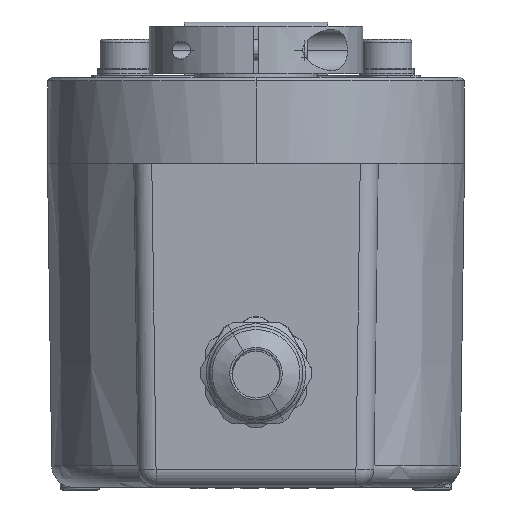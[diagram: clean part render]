
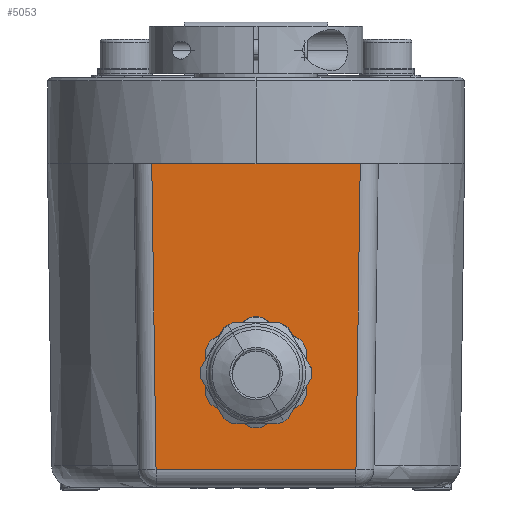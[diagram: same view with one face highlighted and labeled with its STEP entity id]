
A CAD part, front view. The second image highlights one B-rep face of the part: STEP entity #5053.
In plain terms, the highlighted planar face has unit normal (0, -1, -0.014).
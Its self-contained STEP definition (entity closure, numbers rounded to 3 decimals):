
#96 = VERTEX_POINT ( 'NONE', #1080 ) ;
#125 = DIRECTION ( 'NONE',  ( 0., -1., -0.014 ) ) ;
#296 = VECTOR ( 'NONE', #6227, 1000. ) ;
#648 = VECTOR ( 'NONE', #2773, 1000. ) ;
#1080 = CARTESIAN_POINT ( 'NONE',  ( 13.906, -28.406, 2.465 ) ) ;
#1254 = CARTESIAN_POINT ( 'NONE',  ( 17., -29., 45. ) ) ;
#1728 = CARTESIAN_POINT ( 'NONE',  ( -14.5, -29., 45. ) ) ;
#1730 = VERTEX_POINT ( 'NONE', #9848 ) ;
#2277 = FACE_BOUND ( 'NONE', #13207, .T. ) ;
#2279 = CARTESIAN_POINT ( 'NONE',  ( 17., -29., 45. ) ) ;
#2726 = CARTESIAN_POINT ( 'NONE',  ( 5.65, -28.753, 27.3 ) ) ;
#2773 = DIRECTION ( 'NONE',  ( 1., 0., 0. ) ) ;
#3158 = CARTESIAN_POINT ( 'NONE',  ( -14.494, -28.994, 44.56 ) ) ;
#3225 = CARTESIAN_POINT ( 'NONE',  ( -5.65, -28.437, 4.7 ) ) ;
#3327 = VERTEX_POINT ( 'NONE', #6136 ) ;
#3533 = ORIENTED_EDGE ( 'NONE', *, *, #10076, .F. ) ;
#3920 = CARTESIAN_POINT ( 'NONE',  ( -5.65, -28.595, 16. ) ) ;
#3959 = EDGE_LOOP ( 'NONE', ( #4321, #4698, #5106, #15077, #3533 ) ) ;
#4003 = ORIENTED_EDGE ( 'NONE', *, *, #7518, .F. ) ;
#4321 = ORIENTED_EDGE ( 'NONE', *, *, #6979, .F. ) ;
#4619 = VECTOR ( 'NONE', #9449, 1000. ) ;
#4698 = ORIENTED_EDGE ( 'NONE', *, *, #6873, .T. ) ;
#5053 = ADVANCED_FACE ( 'NONE', ( #2277, #13188 ), #9609, .T. ) ;
#5106 = ORIENTED_EDGE ( 'NONE', *, *, #15605, .T. ) ;
#5109 = EDGE_CURVE ( 'NONE', #7509, #14429, #7309, .T. ) ;
#5138 = VERTEX_POINT ( 'NONE', #1728 ) ;
#5641 = VECTOR ( 'NONE', #12797, 1000. ) ;
#6136 = CARTESIAN_POINT ( 'NONE',  ( -13.906, -28.406, 2.465 ) ) ;
#6227 = DIRECTION ( 'NONE',  ( 1., 0., 0. ) ) ;
#6502 = VERTEX_POINT ( 'NONE', #7115 ) ;
#6824 = DIRECTION ( 'NONE',  ( 1., 0., 0. ) ) ;
#6873 = EDGE_CURVE ( 'NONE', #5138, #3327, #10339, .T. ) ;
#6979 = EDGE_CURVE ( 'NONE', #5138, #1730, #14393, .T. ) ;
#7095 = AXIS2_PLACEMENT_3D ( 'NONE', #1254, #125, #14392 ) ;
#7115 = CARTESIAN_POINT ( 'NONE',  ( 14.5, -29., 45. ) ) ;
#7309 =( BOUNDED_CURVE ( )  B_SPLINE_CURVE ( 3, ( #11606, #3225, #14720, #8752 ),
 .UNSPECIFIED., .F., .T. ) 
 B_SPLINE_CURVE_WITH_KNOTS ( ( 4, 4 ),
 ( 1.571, 4.712 ),
 .UNSPECIFIED. ) 
 CURVE ( )  GEOMETRIC_REPRESENTATION_ITEM ( )  RATIONAL_B_SPLINE_CURVE ( ( 1., 0.333, 0.333, 1. ) ) 
 REPRESENTATION_ITEM ( '' )  );
#7509 = VERTEX_POINT ( 'NONE', #14916 ) ;
#7518 = EDGE_CURVE ( 'NONE', #14429, #7509, #13272, .T. ) ;
#8469 = ORIENTED_EDGE ( 'NONE', *, *, #5109, .F. ) ;
#8752 = CARTESIAN_POINT ( 'NONE',  ( 5.65, -28.595, 16. ) ) ;
#8762 = CARTESIAN_POINT ( 'NONE',  ( 17., -29., 45. ) ) ;
#9216 = LINE ( 'NONE', #9293, #4619 ) ;
#9293 = CARTESIAN_POINT ( 'NONE',  ( 14.501, -29., 45.035 ) ) ;
#9449 = DIRECTION ( 'NONE',  ( 0.014, -0.014, 1. ) ) ;
#9609 = PLANE ( 'NONE',  #7095 ) ;
#9848 = CARTESIAN_POINT ( 'NONE',  ( 0., -29., 45. ) ) ;
#9912 = CARTESIAN_POINT ( 'NONE',  ( 5.65, -28.595, 16. ) ) ;
#10076 = EDGE_CURVE ( 'NONE', #1730, #6502, #14569, .T. ) ;
#10339 = LINE ( 'NONE', #3158, #5641 ) ;
#10369 = CARTESIAN_POINT ( 'NONE',  ( 17., -28.406, 2.465 ) ) ;
#11606 = CARTESIAN_POINT ( 'NONE',  ( -5.65, -28.595, 16. ) ) ;
#11838 = VECTOR ( 'NONE', #6824, 1000. ) ;
#12797 = DIRECTION ( 'NONE',  ( 0.014, 0.014, -1. ) ) ;
#13120 = EDGE_CURVE ( 'NONE', #96, #6502, #9216, .T. ) ;
#13188 = FACE_OUTER_BOUND ( 'NONE', #3959, .T. ) ;
#13207 = EDGE_LOOP ( 'NONE', ( #4003, #8469 ) ) ;
#13272 =( BOUNDED_CURVE ( )  B_SPLINE_CURVE ( 3, ( #9912, #2726, #14767, #3920 ),
 .UNSPECIFIED., .F., .T. ) 
 B_SPLINE_CURVE_WITH_KNOTS ( ( 4, 4 ),
 ( 4.712, 7.854 ),
 .UNSPECIFIED. ) 
 CURVE ( )  GEOMETRIC_REPRESENTATION_ITEM ( )  RATIONAL_B_SPLINE_CURVE ( ( 1., 0.333, 0.333, 1. ) ) 
 REPRESENTATION_ITEM ( '' )  );
#14034 = LINE ( 'NONE', #10369, #11838 ) ;
#14392 = DIRECTION ( 'NONE',  ( 0., -0.014, 1. ) ) ;
#14393 = LINE ( 'NONE', #2279, #296 ) ;
#14429 = VERTEX_POINT ( 'NONE', #14903 ) ;
#14569 = LINE ( 'NONE', #8762, #648 ) ;
#14720 = CARTESIAN_POINT ( 'NONE',  ( 5.65, -28.437, 4.7 ) ) ;
#14767 = CARTESIAN_POINT ( 'NONE',  ( -5.65, -28.753, 27.3 ) ) ;
#14903 = CARTESIAN_POINT ( 'NONE',  ( 5.65, -28.595, 16. ) ) ;
#14916 = CARTESIAN_POINT ( 'NONE',  ( -5.65, -28.595, 16. ) ) ;
#15077 = ORIENTED_EDGE ( 'NONE', *, *, #13120, .T. ) ;
#15605 = EDGE_CURVE ( 'NONE', #3327, #96, #14034, .T. ) ;
